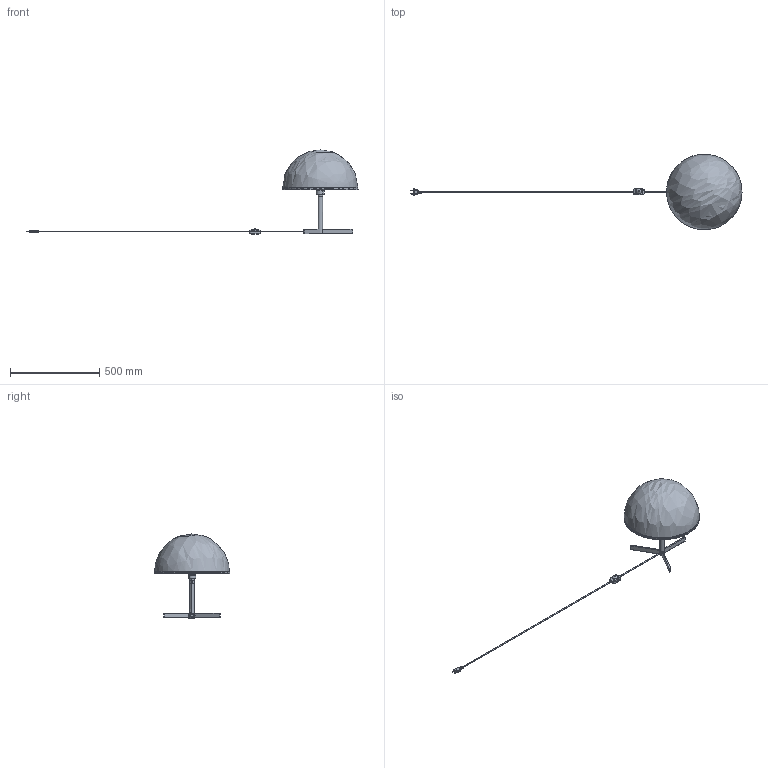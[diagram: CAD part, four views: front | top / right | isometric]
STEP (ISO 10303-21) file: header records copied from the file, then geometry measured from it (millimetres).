
FILE_DESCRIPTION(/* description */ (''),/* implementation_level */ '2;1');
FILE_NAME(/* name */ '29914_3d',/* time_stamp */ '2026-04-17T12:06:05+02:00',/* author */ (''),/* organization */ (''),/* preprocessor_version */ 'ST-DEVELOPER v19.2',/* originating_system */ 'Rhino 8.23',/* authorisation */ '');
FILE_SCHEMA (('CONFIG_CONTROL_DESIGN'));
Length unit declared in the file: millimetre
Products named in the file (2): Document; DOME M 29914
Bounding box: 1860.46 x 422.79 x 472.21 mm (x, y, z)
Volume: 254247.1 mm3; surface area: 847063.3 mm2
Topology: 17 solids, 635 shells, 1262 faces, 4219 edges, 3568 vertices
Faces by surface type: cylinder 527, plane 374, bspline 361
Entity records: 69718 total; most frequent: CARTESIAN_POINT 37948, ORIENTED_EDGE 5684, EDGE_CURVE 4188, DIRECTION 4133, VERTEX_POINT 3568, AXIS2_PLACEMENT_3D 2517, B_SPLINE_CURVE_WITH_KNOTS 2205, CIRCLE 1611
